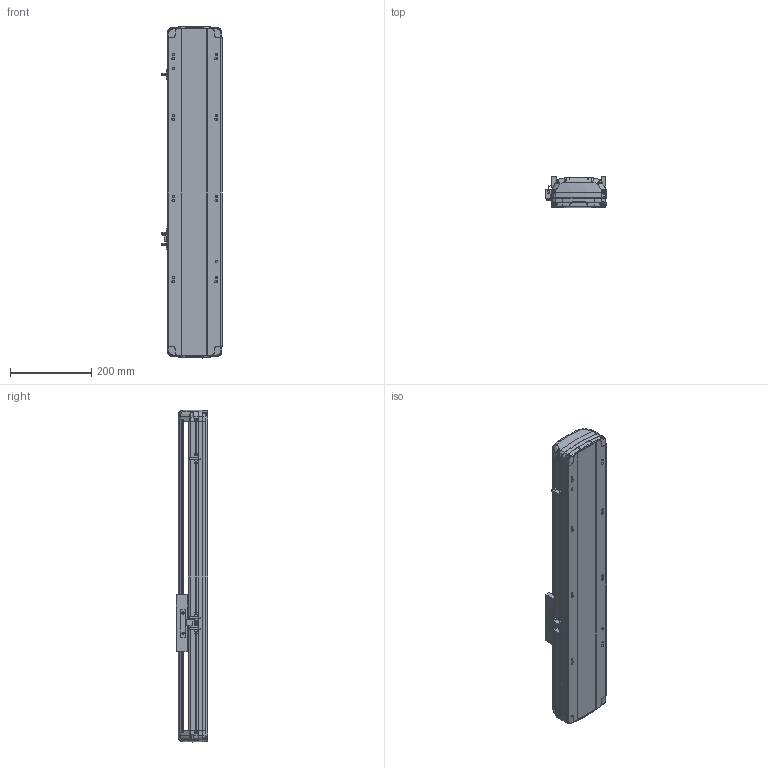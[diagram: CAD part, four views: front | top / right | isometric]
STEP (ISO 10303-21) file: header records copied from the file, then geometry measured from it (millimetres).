
FILE_DESCRIPTION (( 'STEP AP214' ), '1' );
FILE_NAME ('RTH14-XX-400-B-M20B-C4.STEP', '2025-10-24T08:35:27', ( 'Microsoft' ), ( 'Microsoft' ), 'SwSTEP 2.0', 'SolidWorks 2018', '' );
FILE_SCHEMA (( 'AUTOMOTIVE_DESIGN' ));
Length unit declared in the file: millimetre
Products named in the file (7): N_RTH14-B-011PB菁釱^RTH14-XX-XX-B-M20B-C4; N_RTH13-L-012感应片（外置）^RTH14-XX-XX-B-M20B-C4; RTH14-XX-400-B-M20B-C4; N_RTH14-B-007B奻裔^RTH14-XX-XX-B-M20B-C4; N_RTH14-R-004-SFSR16賑釱^RTH14-XX-XX-B-M20B-C4; N_OMRON EE-SX672 传感器^RTH14-XX-XX-B-M20B-C4; N_RTH14-GY-001P^RTH14-XX-XX-B-M20B-C4
Assembly tree (9 placements, depth 2):
  RTH14-XX-400-B-M20B-C4
    N_RTH14-B-011PB菁釱^RTH14-XX-XX-B-M20B-C4
    N_RTH14-B-007B奻裔^RTH14-XX-XX-B-M20B-C4
    N_RTH13-L-012感应片（外置）^RTH14-XX-XX-B-M20B-C4
    N_OMRON EE-SX672 传感器^RTH14-XX-XX-B-M20B-C4  x3
    N_RTH14-R-004-SFSR16賑釱^RTH14-XX-XX-B-M20B-C4
    N_RTH14-GY-001P^RTH14-XX-XX-B-M20B-C4  x2
Bounding box: 148.5 x 78.03 x 818.74 mm (x, y, z)
Volume: 3455080.3 mm3; surface area: 804326.9 mm2
Topology: 9 solids, 9 shells, 1900 faces, 5350 edges, 3482 vertices
Faces by surface type: plane 975, bspline 450, cylinder 411, cone 56, torus 8
Entity records: 45930 total; most frequent: CARTESIAN_POINT 20702, ORIENTED_EDGE 5716, DIRECTION 4161, EDGE_CURVE 2858, VERTEX_POINT 1868, VECTOR 1617, LINE 1617, AXIS2_PLACEMENT_3D 1272
